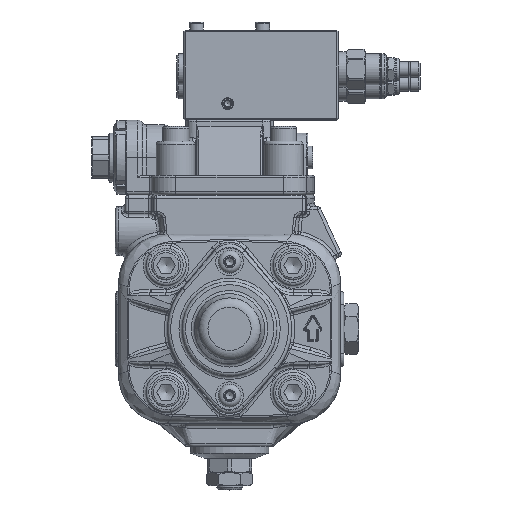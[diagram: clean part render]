
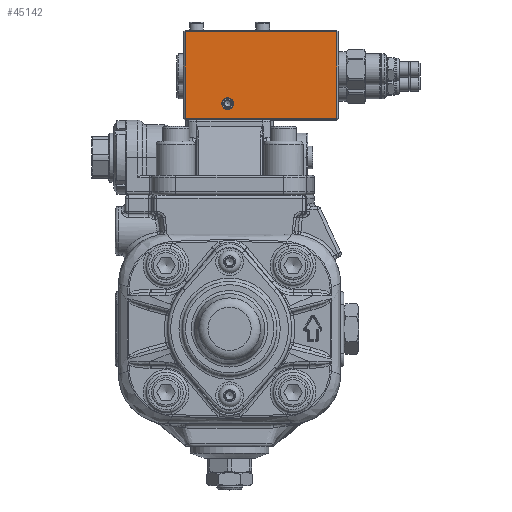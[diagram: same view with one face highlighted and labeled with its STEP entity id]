
A CAD part, top view. The second image highlights one B-rep face of the part: STEP entity #45142.
In plain terms, the highlighted planar face has unit normal (0, 0, 1).
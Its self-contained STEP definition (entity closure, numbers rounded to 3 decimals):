
#2325=FACE_BOUND('',#8568,.T.);
#3203=PLANE('',#49514);
#5874=FACE_OUTER_BOUND('',#8567,.T.);
#8567=EDGE_LOOP('',(#37817,#37818,#37819,#37820));
#8568=EDGE_LOOP('',(#37821));
#11165=CIRCLE('',#49515,3.6);
#13702=LINE('',#92255,#16073);
#13703=LINE('',#92257,#16074);
#13704=LINE('',#92259,#16075);
#13705=LINE('',#92260,#16076);
#16073=VECTOR('',#60345,10.);
#16074=VECTOR('',#60346,10.);
#16075=VECTOR('',#60347,10.);
#16076=VECTOR('',#60348,10.);
#19853=VERTEX_POINT('',#92253);
#19854=VERTEX_POINT('',#92254);
#19855=VERTEX_POINT('',#92256);
#19856=VERTEX_POINT('',#92258);
#19857=VERTEX_POINT('',#92261);
#26003=EDGE_CURVE('',#19853,#19854,#13702,.T.);
#26004=EDGE_CURVE('',#19855,#19853,#13703,.T.);
#26005=EDGE_CURVE('',#19856,#19855,#13704,.T.);
#26006=EDGE_CURVE('',#19854,#19856,#13705,.T.);
#26007=EDGE_CURVE('',#19857,#19857,#11165,.T.);
#37817=ORIENTED_EDGE('',*,*,#26003,.F.);
#37818=ORIENTED_EDGE('',*,*,#26004,.F.);
#37819=ORIENTED_EDGE('',*,*,#26005,.F.);
#37820=ORIENTED_EDGE('',*,*,#26006,.F.);
#37821=ORIENTED_EDGE('',*,*,#26007,.T.);
#45142=ADVANCED_FACE('',(#5874,#2325),#3203,.T.);
#49514=AXIS2_PLACEMENT_3D('',#92252,#60343,#60344);
#49515=AXIS2_PLACEMENT_3D('',#92262,#60349,#60350);
#60343=DIRECTION('center_axis',(0.,0.,
1.));
#60344=DIRECTION('ref_axis',(0.,1.,0.));
#60345=DIRECTION('',(1.,0.,0.));
#60346=DIRECTION('',(0.,1.,0.));
#60347=DIRECTION('',(-1.,0.,0.));
#60348=DIRECTION('',(0.,-1.,0.));
#60349=DIRECTION('center_axis',(0.,0.,
-1.));
#60350=DIRECTION('ref_axis',(1.,0.,0.));
#92252=CARTESIAN_POINT('Origin',(-34.79,170.996,41.252));
#92253=CARTESIAN_POINT('',(-33.79,169.996,41.252));
#92254=CARTESIAN_POINT('',(59.21,169.996,41.252));
#92255=CARTESIAN_POINT('',(-11.04,169.996,41.252));
#92256=CARTESIAN_POINT('',(-33.79,116.996,41.252));
#92257=CARTESIAN_POINT('',(-33.79,170.996,41.252));
#92258=CARTESIAN_POINT('',(59.21,116.996,41.252));
#92259=CARTESIAN_POINT('',(-11.04,116.996,41.252));
#92260=CARTESIAN_POINT('',(59.21,170.996,41.252));
#92261=CARTESIAN_POINT('',(-11.39,125.996,41.252));
#92262=CARTESIAN_POINT('Origin',(-7.79,125.996,41.252));
